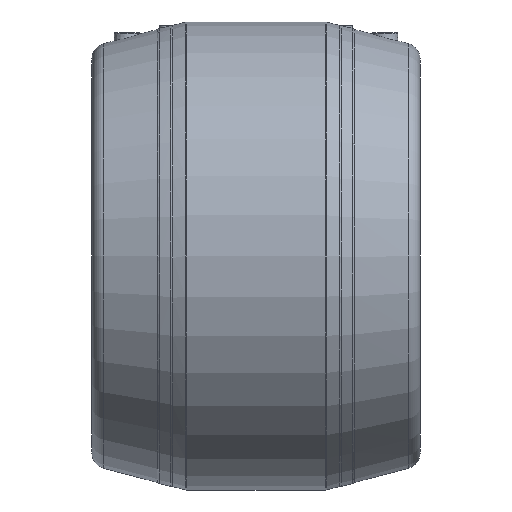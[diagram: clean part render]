
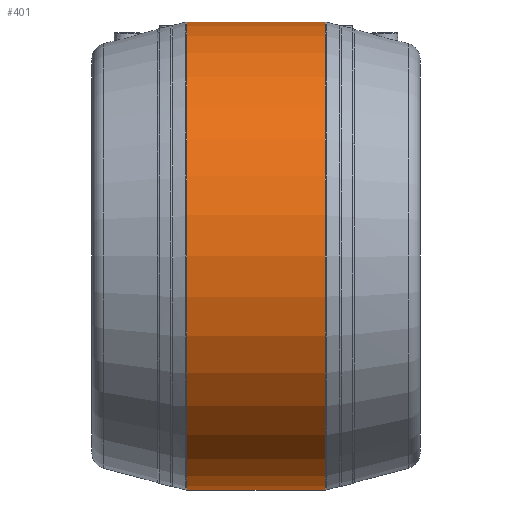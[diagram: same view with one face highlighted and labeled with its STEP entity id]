
A CAD part, front view. The second image highlights one B-rep face of the part: STEP entity #401.
In plain terms, the highlighted cylindrical face has radius 194 mm (diameter 388 mm), a full revolution.
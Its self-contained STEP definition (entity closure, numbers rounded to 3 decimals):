
#40=CYLINDRICAL_SURFACE('',#456,194.);
#66=ORIENTED_EDGE('',*,*,#150,.T.);
#67=ORIENTED_EDGE('',*,*,#151,.T.);
#150=EDGE_CURVE('',#192,#192,#228,.F.);
#151=EDGE_CURVE('',#193,#193,#229,.T.);
#192=VERTEX_POINT('',#711);
#193=VERTEX_POINT('',#713);
#228=CIRCLE('',#457,194.);
#229=CIRCLE('',#458,194.);
#262=EDGE_LOOP('',(#66));
#263=EDGE_LOOP('',(#67));
#330=FACE_BOUND('',#262,.T.);
#331=FACE_BOUND('',#263,.T.);
#401=ADVANCED_FACE('',(#330,#331),#40,.T.);
#456=AXIS2_PLACEMENT_3D('',#709,#535,#536);
#457=AXIS2_PLACEMENT_3D('',#710,#537,#538);
#458=AXIS2_PLACEMENT_3D('',#712,#539,#540);
#535=DIRECTION('',(-1.,0.,0.));
#536=DIRECTION('',(0.,0.,1.));
#537=DIRECTION('',(1.,0.,0.));
#538=DIRECTION('',(0.,0.,-1.));
#539=DIRECTION('',(1.,0.,0.));
#540=DIRECTION('',(0.,0.,-1.));
#709=CARTESIAN_POINT('',(-60.,0.,0.));
#710=CARTESIAN_POINT('',(57.482,0.,0.));
#711=CARTESIAN_POINT('',(57.482,0.,-194.));
#712=CARTESIAN_POINT('',(-57.482,0.,0.));
#713=CARTESIAN_POINT('',(-57.482,0.,-194.));
